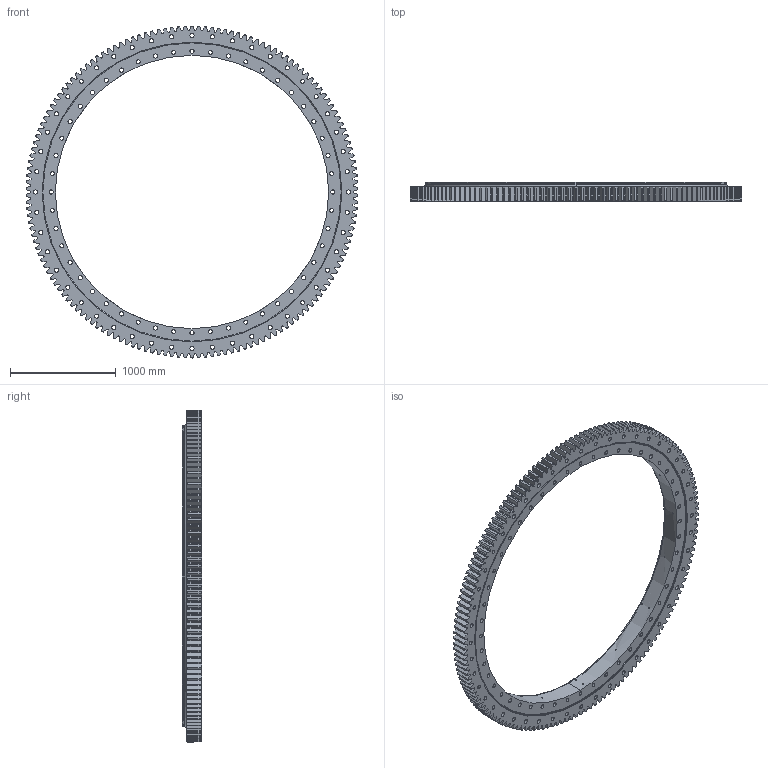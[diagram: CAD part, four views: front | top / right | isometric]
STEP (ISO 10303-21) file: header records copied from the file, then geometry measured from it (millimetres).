
FILE_DESCRIPTION (( 'STEP AP214' ), '1' );
FILE_NAME ('SM3332-2-3136AA.STEP', '2022-11-29T07:10:24', ( '' ), ( '' ), 'SwSTEP 2.0', 'SolidWorks 2020', '' );
FILE_SCHEMA (( 'AUTOMOTIVE_DESIGN' ));
Length unit declared in the file: millimetre
Products named in the file (1): SM3332-2-3136AA
Bounding box: 3135.66 x 182 x 3136 mm (x, y, z)
Volume: 337607071.9 mm3; surface area: 15501937.9 mm2
Topology: 5 solids, 5 shells, 1501 faces, 4336 edges, 2887 vertices
Faces by surface type: cylinder 487, plane 384, cone 322, bspline 308
Entity records: 53103 total; most frequent: CARTESIAN_POINT 15329, ORIENTED_EDGE 8672, DIRECTION 6695, EDGE_CURVE 4336, VERTEX_POINT 2887, AXIS2_PLACEMENT_3D 2461, LINE 1773, VECTOR 1773
